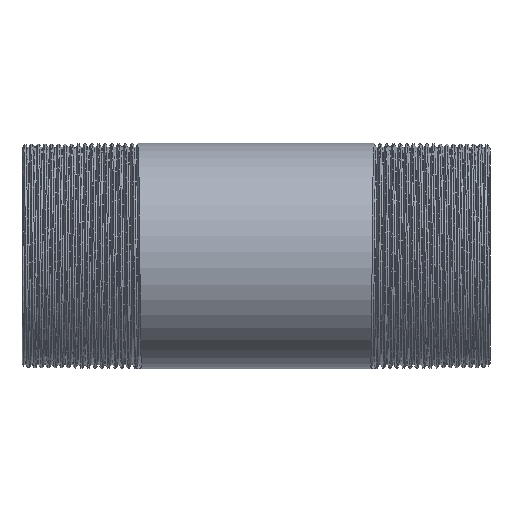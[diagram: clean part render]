
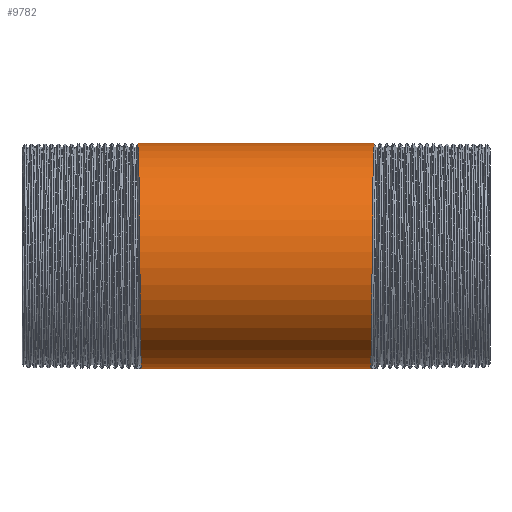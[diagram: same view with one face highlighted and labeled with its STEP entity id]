
A CAD part, front view. The second image highlights one B-rep face of the part: STEP entity #9782.
In plain terms, the highlighted cylindrical face has radius 16.85 mm (diameter 33.7 mm), a partial arc.
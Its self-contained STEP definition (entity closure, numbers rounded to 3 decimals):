
#387 = CARTESIAN_POINT ( 'NONE',  ( -17.313, -16.85, -6.979 ) ) ;
#626 = VERTEX_POINT ( 'NONE', #8087 ) ;
#1013 = CARTESIAN_POINT ( 'NONE',  ( 17.438, -16.85, 6.979 ) ) ;
#1314 = CARTESIAN_POINT ( 'NONE',  ( 17.25, -11.915, -11.915 ) ) ;
#1555 = CARTESIAN_POINT ( 'NONE',  ( -17.125, 0., -16.85 ) ) ;
#1784 = CARTESIAN_POINT ( 'NONE',  ( -149.494, 0., -16.85 ) ) ;
#2048 = CARTESIAN_POINT ( 'NONE',  ( -149.494, 0., 16.85 ) ) ;
#2168 =( BOUNDED_CURVE ( )  B_SPLINE_CURVE ( 2, ( #14084, #10577, #1314, #2422, #6099, #1013, #12927, #9391, #4538 ),
 .UNSPECIFIED., .F., .F. ) 
 B_SPLINE_CURVE_WITH_KNOTS ( ( 3, 2, 2, 2, 3 ),
 ( 0., 0.006, 0.011, 0.017, 0.023 ),
 .UNSPECIFIED. ) 
 CURVE ( )  GEOMETRIC_REPRESENTATION_ITEM ( )  RATIONAL_B_SPLINE_CURVE ( ( 1., 0.924, 1., 0.924, 1., 0.924, 1., 0.924, 1. ) ) 
 REPRESENTATION_ITEM ( '' )  );
#2422 = CARTESIAN_POINT ( 'NONE',  ( 17.313, -16.85, -6.979 ) ) ;
#2429 = EDGE_CURVE ( 'NONE', #5267, #10656, #8002, .T. ) ;
#2466 = AXIS2_PLACEMENT_3D ( 'NONE', #6712, #4508, #6559 ) ;
#2583 = CARTESIAN_POINT ( 'NONE',  ( -17.438, -16.85, 6.979 ) ) ;
#2676 = CARTESIAN_POINT ( 'NONE',  ( 17.125, 0., -16.85 ) ) ;
#3690 = EDGE_CURVE ( 'NONE', #626, #10656, #13373, .T. ) ;
#3971 = ORIENTED_EDGE ( 'NONE', *, *, #2429, .T. ) ;
#4369 = LINE ( 'NONE', #1784, #14549 ) ;
#4508 = DIRECTION ( 'NONE',  ( -1., 0., 0. ) ) ;
#4538 = CARTESIAN_POINT ( 'NONE',  ( 17.625, 0., 16.85 ) ) ;
#5162 = CARTESIAN_POINT ( 'NONE',  ( -17.375, -16.85, 0. ) ) ;
#5267 = VERTEX_POINT ( 'NONE', #8449 ) ;
#5309 = EDGE_CURVE ( 'NONE', #11423, #5267, #2168, .T. ) ;
#5515 = CARTESIAN_POINT ( 'NONE',  ( -17.625, 0., 16.85 ) ) ;
#6099 = CARTESIAN_POINT ( 'NONE',  ( 17.375, -16.85, 0. ) ) ;
#6559 = DIRECTION ( 'NONE',  ( 0., 0., 1. ) ) ;
#6712 = CARTESIAN_POINT ( 'NONE',  ( -149.494, 0., 0. ) ) ;
#7357 = CARTESIAN_POINT ( 'NONE',  ( -17.5, -11.915, 11.915 ) ) ;
#8002 = LINE ( 'NONE', #2048, #10612 ) ;
#8087 = CARTESIAN_POINT ( 'NONE',  ( -17.125, 0., -16.85 ) ) ;
#8449 = CARTESIAN_POINT ( 'NONE',  ( 17.625, 0., 16.85 ) ) ;
#8976 = FACE_OUTER_BOUND ( 'NONE', #12617, .T. ) ;
#9391 = CARTESIAN_POINT ( 'NONE',  ( 17.563, -6.979, 16.85 ) ) ;
#9782 = ADVANCED_FACE ( 'NONE', ( #8976 ), #12742, .T. ) ;
#10577 = CARTESIAN_POINT ( 'NONE',  ( 17.188, -6.979, -16.85 ) ) ;
#10612 = VECTOR ( 'NONE', #13792, 1000. ) ;
#10656 = VERTEX_POINT ( 'NONE', #5515 ) ;
#11116 = CARTESIAN_POINT ( 'NONE',  ( -17.188, -6.979, -16.85 ) ) ;
#11406 = DIRECTION ( 'NONE',  ( -1., 0., 0. ) ) ;
#11423 = VERTEX_POINT ( 'NONE', #2676 ) ;
#12502 = ORIENTED_EDGE ( 'NONE', *, *, #3690, .F. ) ;
#12617 = EDGE_LOOP ( 'NONE', ( #13342, #15488, #3971, #12502 ) ) ;
#12742 = CYLINDRICAL_SURFACE ( 'NONE', #2466, 16.85 ) ;
#12927 = CARTESIAN_POINT ( 'NONE',  ( 17.5, -11.915, 11.915 ) ) ;
#13313 = CARTESIAN_POINT ( 'NONE',  ( -17.25, -11.915, -11.915 ) ) ;
#13342 = ORIENTED_EDGE ( 'NONE', *, *, #14193, .F. ) ;
#13373 =( BOUNDED_CURVE ( )  B_SPLINE_CURVE ( 2, ( #1555, #11116, #13313, #387, #5162, #2583, #7357, #14706, #13540 ),
 .UNSPECIFIED., .F., .F. ) 
 B_SPLINE_CURVE_WITH_KNOTS ( ( 3, 2, 2, 2, 3 ),
 ( 0., 0.006, 0.011, 0.017, 0.023 ),
 .UNSPECIFIED. ) 
 CURVE ( )  GEOMETRIC_REPRESENTATION_ITEM ( )  RATIONAL_B_SPLINE_CURVE ( ( 1., 0.924, 1., 0.924, 1., 0.924, 1., 0.924, 1. ) ) 
 REPRESENTATION_ITEM ( '' )  );
#13540 = CARTESIAN_POINT ( 'NONE',  ( -17.625, 0., 16.85 ) ) ;
#13792 = DIRECTION ( 'NONE',  ( -1., 0., 0. ) ) ;
#14084 = CARTESIAN_POINT ( 'NONE',  ( 17.125, 0., -16.85 ) ) ;
#14193 = EDGE_CURVE ( 'NONE', #11423, #626, #4369, .T. ) ;
#14549 = VECTOR ( 'NONE', #11406, 1000. ) ;
#14706 = CARTESIAN_POINT ( 'NONE',  ( -17.563, -6.979, 16.85 ) ) ;
#15488 = ORIENTED_EDGE ( 'NONE', *, *, #5309, .T. ) ;
